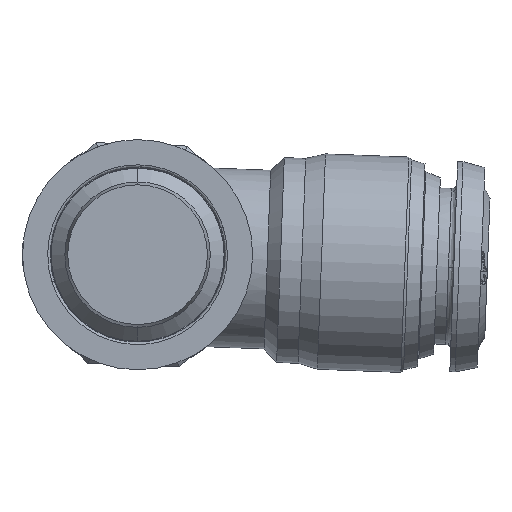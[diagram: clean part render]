
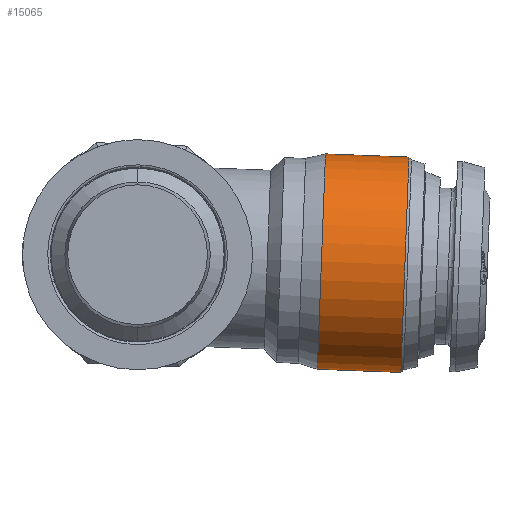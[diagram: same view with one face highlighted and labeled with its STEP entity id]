
A CAD part, front view. The second image highlights one B-rep face of the part: STEP entity #15065.
In plain terms, the highlighted cylindrical face has radius 10.25 mm (diameter 20.5 mm), a partial arc.
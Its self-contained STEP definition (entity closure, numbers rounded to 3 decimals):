
#415 = DIRECTION ( 'NONE',  ( 0.999, 0., -0.038 ) ) ;
#883 = VERTEX_POINT ( 'NONE', #13739 ) ;
#1155 = CARTESIAN_POINT ( 'NONE',  ( 25.815, 19.9, 9.288 ) ) ;
#1366 = FACE_OUTER_BOUND ( 'NONE', #11079, .T. ) ;
#1559 = EDGE_CURVE ( 'NONE', #9241, #11442, #7441, .T. ) ;
#1585 = DIRECTION ( 'NONE',  ( 0.038, 0., 0.999 ) ) ;
#1831 = LINE ( 'NONE', #3401, #10901 ) ;
#2494 = VERTEX_POINT ( 'NONE', #4796 ) ;
#2612 = DIRECTION ( 'NONE',  ( 0.038, 0., 0.999 ) ) ;
#2821 = CARTESIAN_POINT ( 'NONE',  ( 17.488, 19.9, -0.656 ) ) ;
#3128 = EDGE_CURVE ( 'NONE', #883, #2494, #7233, .T. ) ;
#3401 = CARTESIAN_POINT ( 'NONE',  ( 0.384, 19.9, 10.243 ) ) ;
#4435 = DIRECTION ( 'NONE',  ( -0.999, 0., 0.038 ) ) ;
#4796 = CARTESIAN_POINT ( 'NONE',  ( 17.103, 19.9, -10.899 ) ) ;
#5349 = ORIENTED_EDGE ( 'NONE', *, *, #3128, .T. ) ;
#5682 = CARTESIAN_POINT ( 'NONE',  ( 25.43, 19.9, -0.955 ) ) ;
#5731 = DIRECTION ( 'NONE',  ( 0.038, 0., 0.999 ) ) ;
#6456 = VECTOR ( 'NONE', #14893, 1000. ) ;
#7072 = ORIENTED_EDGE ( 'NONE', *, *, #1559, .T. ) ;
#7188 = EDGE_CURVE ( 'NONE', #11442, #883, #1831, .T. ) ;
#7233 = CIRCLE ( 'NONE', #15089, 10.25 ) ;
#7441 = CIRCLE ( 'NONE', #14663, 10.25 ) ;
#7511 = ORIENTED_EDGE ( 'NONE', *, *, #7715, .F. ) ;
#7715 = EDGE_CURVE ( 'NONE', #9241, #2494, #12372, .T. ) ;
#8351 = ORIENTED_EDGE ( 'NONE', *, *, #7188, .T. ) ;
#8777 = AXIS2_PLACEMENT_3D ( 'NONE', #12042, #14439, #2612 ) ;
#8928 = CARTESIAN_POINT ( 'NONE',  ( -0.384, 19.9, -10.243 ) ) ;
#9241 = VERTEX_POINT ( 'NONE', #10624 ) ;
#9322 = CYLINDRICAL_SURFACE ( 'NONE', #8777, 10.25 ) ;
#10624 = CARTESIAN_POINT ( 'NONE',  ( 25.046, 19.9, -11.197 ) ) ;
#10901 = VECTOR ( 'NONE', #15210, 1000. ) ;
#11079 = EDGE_LOOP ( 'NONE', ( #7511, #7072, #8351, #5349 ) ) ;
#11442 = VERTEX_POINT ( 'NONE', #1155 ) ;
#12042 = CARTESIAN_POINT ( 'NONE',  ( 0., 19.9, 0. ) ) ;
#12372 = LINE ( 'NONE', #8928, #6456 ) ;
#13739 = CARTESIAN_POINT ( 'NONE',  ( 17.872, 19.9, 9.586 ) ) ;
#14439 = DIRECTION ( 'NONE',  ( -0.999, 0., 0.038 ) ) ;
#14663 = AXIS2_PLACEMENT_3D ( 'NONE', #5682, #4435, #5731 ) ;
#14893 = DIRECTION ( 'NONE',  ( -0.999, 0., 0.038 ) ) ;
#15065 = ADVANCED_FACE ( 'NONE', ( #1366 ), #9322, .T. ) ;
#15089 = AXIS2_PLACEMENT_3D ( 'NONE', #2821, #415, #1585 ) ;
#15210 = DIRECTION ( 'NONE',  ( -0.999, 0., 0.038 ) ) ;
